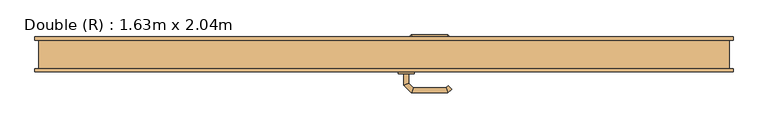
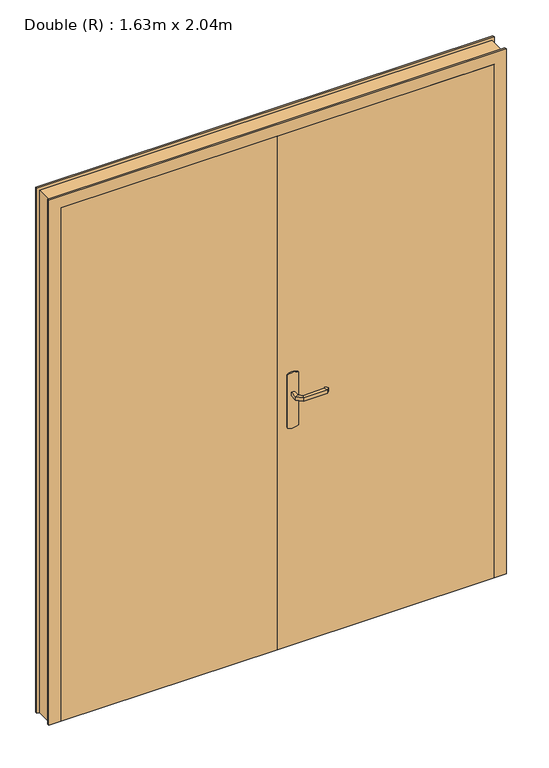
"""IFC4 building model written with IfcOpenShell, lengths in millimetres: door geometry, Double (R) : 1.63m x 2.04m."""

import ifcopenshell
import ifcopenshell.guid

model = None  # the IFC model being written
_history = None  # IfcOwnerHistory: only IFC2X3 demands one
_inside = {}  # id of a spatial element -> (the spatial element, [elements in it])
_under = {}  # id of a project, library or spatial element -> (it, [spatial elements below it])
_declared = {}  # id of a project -> (the project, [libraries it declares])
_typed = {}  # id of a type object -> (the type object, [elements of that type])
_made_of = {}  # id of a material, layer set ... -> (it, [elements and type objects made of it])


def new_model(schema):
    """Start an empty IFC model of exactly this schema.

    Asked for "IFC4X3", IfcOpenShell would pick the latest addendum, in which some entities
    have other attributes; the version numbers below select the first issue.
    IFC2X3 requires an IfcOwnerHistory on every rooted entity: one is made here for all.
    """
    global model, _history
    if schema == "IFC4X3":
        model = ifcopenshell.file(schema_version=(4, 3, 0, 0))
    else:
        model = ifcopenshell.file(schema=schema)
    _inside.clear()
    _under.clear()
    _declared.clear()
    _typed.clear()
    _made_of.clear()
    _history = None
    if model.schema == "IFC2X3":
        org = make("IfcOrganization", Name="unknown")
        user = make(
            "IfcPersonAndOrganization",
            ThePerson=make("IfcPerson", FamilyName="unknown"),
            TheOrganization=org,
        )
        app = make(
            "IfcApplication",
            ApplicationDeveloper=org,
            Version="unknown",
            ApplicationFullName="unknown",
            ApplicationIdentifier="unknown",
        )
        _history = make(
            "IfcOwnerHistory",
            OwningUser=user,
            OwningApplication=app,
            ChangeAction="ADDED",
            CreationDate=0,
        )
    return model


def make(cls, **values):
    """One entity of the class cls with the attributes given. An attribute that is None is left unset."""
    return model.create_entity(
        cls, **{name: value for name, value in values.items() if value is not None}
    )


def rooted(cls, **values):
    """An entity with a GlobalId (a new one), such as an element, a storey or a relation."""
    return make(cls, GlobalId=ifcopenshell.guid.new(), OwnerHistory=_history, **values)


def si_unit(unit_type, name, prefix=None):
    """IfcSIUnit, for example si_unit("LENGTHUNIT", "METRE", prefix="MILLI")."""
    return make("IfcSIUnit", UnitType=unit_type, Prefix=prefix, Name=name)


def assignment(units):
    """IfcUnitAssignment: the units of a project."""
    return None if units is None else make("IfcUnitAssignment", Units=units)


def point(xyz):
    """IfcCartesianPoint."""
    return None if xyz is None else make("IfcCartesianPoint", Coordinates=xyz)


def direction(xyz):
    """IfcDirection."""
    return None if xyz is None else make("IfcDirection", DirectionRatios=xyz)


def frame(location, z_axis=None, x_axis=None):
    """IfcAxis2Placement3D, a coordinate frame: its origin and axes. An axis left out is left unset."""
    return make(
        "IfcAxis2Placement3D",
        Location=point(location),
        Axis=direction(z_axis),
        RefDirection=direction(x_axis),
    )


def frame_2d(location, x_axis=None):
    """IfcAxis2Placement2D, a coordinate frame in the plane: its origin and x axis."""
    return make(
        "IfcAxis2Placement2D", Location=point(location), RefDirection=direction(x_axis)
    )


def origin():
    """The frame at (0, 0, 0) with its axes left unset."""
    return frame((0.0, 0.0, 0.0))


def origin_with_axes():
    """The frame at (0, 0, 0) with the z axis (0, 0, 1) and the x axis (1, 0, 0) written out."""
    return frame((0.0, 0.0, 0.0), z_axis=(0.0, 0.0, 1.0), x_axis=(1.0, 0.0, 0.0))


def place(relative_to, where):
    """IfcLocalPlacement: puts the frame where relative to a parent placement (None: the world)."""
    return make(
        "IfcLocalPlacement", PlacementRelTo=relative_to, RelativePlacement=where
    )


def context(
    kind, dimensions, precision=None, world=None, true_north=None, identifier=None
):
    """IfcGeometricRepresentationContext, for example the 3D "Model" context."""
    return make(
        "IfcGeometricRepresentationContext",
        ContextIdentifier=identifier,
        ContextType=kind,
        CoordinateSpaceDimension=dimensions,
        Precision=precision,
        WorldCoordinateSystem=world,
        TrueNorth=true_north,
    )


def project(units=None, contexts=None):
    """IfcProject with its units and contexts."""
    return rooted(
        "IfcProject",
        Name="project",
        RepresentationContexts=contexts,
        UnitsInContext=assignment(units),
    )


def spatial(cls, under=None, at=None, **own):
    """A site, building, storey or space (cls), placed at a placement, below another one or the project."""
    s = rooted(cls, ObjectPlacement=at, **own)
    if under is not None:
        _under.setdefault(under.id(), (under, []))[1].append(s)
    return s


def polyline(points):
    """IfcPolyline through the points."""
    return make("IfcPolyline", Points=[point(p) for p in points])


def circle_curve(where, radius):
    """IfcCircle in the frame where."""
    return make("IfcCircle", Position=where, Radius=radius)


def ellipse_curve(where, semi_axis1, semi_axis2):
    """IfcEllipse in the frame where."""
    return make(
        "IfcEllipse", Position=where, SemiAxis1=semi_axis1, SemiAxis2=semi_axis2
    )


def trimmed(basis, trim1, trim2, sense, master):
    """IfcTrimmedCurve: the piece of a basis curve between two trims."""
    return make(
        "IfcTrimmedCurve",
        BasisCurve=basis,
        Trim1=trim1,
        Trim2=trim2,
        SenseAgreement=sense,
        MasterRepresentation=master,
    )


def segment(curve, same_sense, transition):
    """IfcCompositeCurveSegment."""
    return make(
        "IfcCompositeCurveSegment",
        Transition=transition,
        SameSense=same_sense,
        ParentCurve=curve,
    )


def composite_curve(segments, self_intersect=None):
    """IfcCompositeCurve: segments joined end to end."""
    return make("IfcCompositeCurve", Segments=segments, SelfIntersect=self_intersect)


def outline(outer, holes=None, kind="AREA"):
    """IfcArbitraryClosedProfileDef: a profile drawn as a closed curve; with holes, ...WithVoids."""
    if holes is None:
        return make("IfcArbitraryClosedProfileDef", ProfileType=kind, OuterCurve=outer)
    return make(
        "IfcArbitraryProfileDefWithVoids",
        ProfileType=kind,
        OuterCurve=outer,
        InnerCurves=holes,
    )


def extrude(swept, where, along, depth):
    """IfcExtrudedAreaSolid: the profile swept, set in the frame where, extruded along a direction by depth."""
    return make(
        "IfcExtrudedAreaSolid",
        SweptArea=swept,
        Position=where,
        ExtrudedDirection=direction(along),
        Depth=depth,
    )


def faces_of(points, faces, orient=None, outer=None):
    """IfcFace entities. A face is a list of loops; a loop is a list of indices into points, from 0.

    orient and outer hold one flag for each loop. By default every Orientation is true, the
    first loop of a face is its IfcFaceOuterBound and the others are IfcFaceBound.
    """
    made = []
    for i, loops in enumerate(faces):
        bounds = []
        for j, loop in enumerate(loops):
            is_outer = j == 0 if outer is None else outer[i][j]
            bounds.append(
                make(
                    "IfcFaceOuterBound" if is_outer else "IfcFaceBound",
                    Bound=make("IfcPolyLoop", Polygon=[points[k] for k in loop]),
                    Orientation=True if orient is None else orient[i][j],
                )
            )
        made.append(make("IfcFace", Bounds=bounds))
    return made


def faceted_brep(points, faces, orient=None, outer=None, voids=None):
    """IfcFacetedBrep: a solid bounded by flat faces; with voids (closed shells), ...WithVoids."""
    shared = [point(p) for p in points]
    hull = make("IfcClosedShell", CfsFaces=faces_of(shared, faces, orient, outer))
    if voids is None:
        return make("IfcFacetedBrep", Outer=hull)
    return make(
        "IfcFacetedBrepWithVoids",
        Outer=hull,
        Voids=[
            make(cls, CfsFaces=faces_of(shared, fs, o, b)) for cls, fs, o, b in voids
        ],
    )


def shape(context_of_items, identifier, shape_type, items):
    """IfcShapeRepresentation: the items that make up one representation, for example the "Body"."""
    return make(
        "IfcShapeRepresentation",
        ContextOfItems=context_of_items,
        RepresentationIdentifier=identifier,
        RepresentationType=shape_type,
        Items=items,
    )


def source(mapping_origin, context_of_items, identifier, shape_type, items):
    """IfcRepresentationMap: a shape defined once, which mapped items show again and again."""
    return make(
        "IfcRepresentationMap",
        MappingOrigin=mapping_origin,
        MappedRepresentation=shape(context_of_items, identifier, shape_type, items),
    )


def transform(
    local_origin,
    x_axis=None,
    y_axis=None,
    z_axis=None,
    scale=None,
    scale2=None,
    scale3=None,
    uniform=True,
):
    """IfcCartesianTransformationOperator3D, or its non-uniform kind. x_axis, y_axis, z_axis: its Axis1, 2, 3."""
    if uniform:
        return make(
            "IfcCartesianTransformationOperator3D",
            Axis1=direction(x_axis),
            Axis2=direction(y_axis),
            LocalOrigin=point(local_origin),
            Scale=scale,
            Axis3=direction(z_axis),
        )
    return make(
        "IfcCartesianTransformationOperator3DnonUniform",
        Axis1=direction(x_axis),
        Axis2=direction(y_axis),
        LocalOrigin=point(local_origin),
        Scale=scale,
        Axis3=direction(z_axis),
        Scale2=scale2,
        Scale3=scale3,
    )


def mapped(mapping_source, mapping_target):
    """IfcMappedItem: shows the shape of a source again, moved by a transform."""
    return make(
        "IfcMappedItem", MappingSource=mapping_source, MappingTarget=mapping_target
    )


def made_of(thing, what):
    """Note that an element or type object is made of a material, layer set ...; save() writes the relation."""
    if what is not None:
        _made_of.setdefault(what.id(), (what, []))[1].append(thing)
    return thing


def element(
    cls,
    number,
    at=None,
    inside=None,
    cuts=None,
    type_object=None,
    material=None,
    context=None,
    identifier="Body",
    shape_type=None,
    held_by="IfcProductDefinitionShape",
    body=None,
    shapes=None,
    **own,
):
    """One element of the class cls, such as IfcWall. Its Tag is "e" and its number.

    at: its placement. inside: the storey or other place that contains it. cuts: it is an
    opening in that element (IfcRelVoidsElement). A single representation is given by context,
    identifier, shape_type and body (its items); several are given by shapes. held_by: the class
    of the entity that holds the representations. save() writes the other relations.
    """
    e = rooted(cls, Tag="e%d" % number, ObjectPlacement=at, **own)
    if body is not None:
        shapes = [shape(context, identifier, shape_type, body)]
    if shapes is not None:
        e.Representation = make(held_by, Representations=shapes)
    if inside is not None:
        _inside.setdefault(inside.id(), (inside, []))[1].append(e)
    if cuts is not None:
        rooted(
            "IfcRelVoidsElement", RelatingBuildingElement=cuts, RelatedOpeningElement=e
        )
    if type_object is not None:
        _typed.setdefault(type_object.id(), (type_object, []))[1].append(e)
    return made_of(e, material)


def aggregate(whole, parts):
    """IfcRelAggregates: a whole, such as a stair, and the parts it consists of."""
    return rooted("IfcRelAggregates", RelatingObject=whole, RelatedObjects=parts)


def save(model, path):
    """Write the relations noted so far, then the file.

    IfcRelAggregates (storeys below a building ...), IfcRelContainedInSpatialStructure (elements
    in a storey), IfcRelDefinesByType, IfcRelAssociatesMaterial and IfcRelDeclares: one each for
    every whole, place, type object, material and project.
    """
    for whole, parts in _under.values():
        aggregate(whole, parts)
    for where, things in _inside.values():
        rooted(
            "IfcRelContainedInSpatialStructure",
            RelatedElements=things,
            RelatingStructure=where,
        )
    for kind, things in _typed.values():
        rooted("IfcRelDefinesByType", RelatedObjects=things, RelatingType=kind)
    for what, things in _made_of.values():
        rooted("IfcRelAssociatesMaterial", RelatedObjects=things, RelatingMaterial=what)
    for by, libraries in _declared.values():
        rooted("IfcRelDeclares", RelatingContext=by, RelatedDefinitions=libraries)
    model.write(path)


def plane_surface(at):
    """IfcPlane: the flat surface through the origin of the frame at, square to its z axis."""
    return make("IfcPlane", Position=at)


def cylinder_surface(at, radius):
    """IfcCylindricalSurface: all points at the distance radius from the z axis of the frame at."""
    return make("IfcCylindricalSurface", Position=at, Radius=radius)


def advanced_brep(points, edges, surfaces, faces):
    """IfcAdvancedBrep: a solid bounded by faces that lie on surfaces and meet in shared edges.

    An edge is (start, end): straight between two places in points (the first is 0);
    or (start, end, curve); or (start, end, curve, False) where it runs against its curve.
    A face is (place in surfaces, loops), or (place, loops, False) where it looks against
    its surface's normal. A loop lists edges by number (the first is 1), with a minus sign
    where the edge is run from its end to its start. The first loop is the outer one.
    """
    corners = [point(p) for p in points]
    vertices = [make("IfcVertexPoint", VertexGeometry=c) for c in corners]
    made = []
    for start, end, *more in edges:
        made.append(
            make(
                "IfcEdgeCurve",
                EdgeStart=vertices[start],
                EdgeEnd=vertices[end],
                EdgeGeometry=more[0] if more else make("IfcPolyline", Points=[corners[start], corners[end]]),
                SameSense=more[1] if len(more) > 1 else True,
            )
        )
    hull = []
    for where, loops, *sense in faces:
        bounds = []
        for j, loop in enumerate(loops):
            ring = [make("IfcOrientedEdge", EdgeElement=made[abs(k) - 1], Orientation=k > 0) for k in loop]
            bounds.append(
                make(
                    "IfcFaceOuterBound" if j == 0 else "IfcFaceBound",
                    Bound=make("IfcEdgeLoop", EdgeList=ring),
                    Orientation=True,
                )
            )
        hull.append(make("IfcAdvancedFace", Bounds=bounds, FaceSurface=surfaces[where], SameSense=sense[0] if sense else True))
    return make("IfcAdvancedBrep", Outer=make("IfcClosedShell", CfsFaces=hull))


def double_r_1_63m_x_2_04m_f0196d8f(model_context):
    return source(origin(), model_context, "Body", "SolidModel", [
        advanced_brep(
        [(61.0, 2.0, 993.0), (61.0, 2.0, 1007.0), (49.0, 2.0, 1007.0), (49.0, 2.0, 993.0), (61.0, 24.4852045, 993.0), (61.0, 24.4852045, 1007.0), (49.0, 29.4557673, 1007.0), (49.0, 29.4557673, 993.0), (72.4852814, 35.9704859, 993.0), (72.4852814, 35.9704859, 1007.0), (67.5147186, 47.9704859, 1007.0), (67.5147186, 47.9704859, 993.0), (152.5605023, 35.9704859, 993.0), (152.5605023, 35.9704859, 1007.0), (157.531065, 47.9704859, 1007.0), (157.531065, 47.9704859, 993.0), (157.8742108, 30.6567774, 993.0), (166.3594922, 39.1420588, 993.0), (166.3594922, 39.1420588, 1007.0), (157.8742108, 30.6567774, 1007.0)],
        [
            (0, 1),
            (1, 2, circle_curve(frame((55.0, 2.0, 986.9542278), z_axis=(0.0, -1.0, 0.0), x_axis=(-1.0, 0.0, 0.0)), 20.9244589)),
            (2, 3),
            (3, 0, circle_curve(frame((55.0, 2.0, 1013.0457722), z_axis=(0.0, -1.0, 0.0), x_axis=(-1.0, 0.0, 0.0)), 20.9244589)),
            (0, 4),
            (4, 5),
            (5, 1),
            (5, 6, ellipse_curve(frame((55.0, 26.9704859, 986.9542278), z_axis=(-0.38268343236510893, -0.9238795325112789, 0.0), x_axis=(0.9238795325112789, -0.3826834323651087, 0.0)), 22.6484711, 20.9244589)),
            (6, 2),
            (6, 7),
            (7, 3),
            (7, 4, ellipse_curve(frame((55.0, 26.9704859, 1013.0457722), z_axis=(-0.38268343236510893, -0.9238795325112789, 0.0), x_axis=(0.9238795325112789, -0.3826834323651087, 0.0)), 22.6484711, 20.9244589)),
            (4, 8),
            (8, 9),
            (9, 5),
            (9, 10, ellipse_curve(frame((70.0, 41.9704859, 986.9542278), z_axis=(-0.9238795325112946, -0.38268343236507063, 0.0), x_axis=(0.3826834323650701, -0.9238795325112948, 0.0)), 22.6484711, 20.9244589)),
            (10, 6),
            (10, 11),
            (11, 7),
            (11, 8, ellipse_curve(frame((70.0, 41.9704859, 1013.0457722), z_axis=(-0.9238795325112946, -0.38268343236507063, 0.0), x_axis=(0.3826834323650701, -0.9238795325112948, 0.0)), 22.6484711, 20.9244589)),
            (8, 12),
            (12, 13),
            (13, 9),
            (13, 14, ellipse_curve(frame((155.0457837, 41.9704859, 986.9542278), z_axis=(-0.9238795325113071, 0.38268343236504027, 0.0), x_axis=(-0.38268343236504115, -0.9238795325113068, 0.0)), 22.6484711, 20.9244589)),
            (14, 10),
            (14, 15),
            (15, 11),
            (15, 12, ellipse_curve(frame((155.0457837, 41.9704859, 1013.0457722), z_axis=(-0.9238795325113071, 0.38268343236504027, 0.0), x_axis=(-0.38268343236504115, -0.9238795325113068, 0.0)), 22.6484711, 20.9244589)),
            (16, 17, circle_curve(frame((162.1168515, 34.8994181, 1013.0457722), z_axis=(0.7071067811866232, -0.7071067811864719, 0.0), x_axis=(0.7071067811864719, 0.7071067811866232, 0.0)), 20.9244589)),
            (17, 18),
            (18, 19, circle_curve(frame((162.1168515, 34.8994181, 986.9542278), z_axis=(0.7071067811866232, -0.7071067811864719, 0.0), x_axis=(0.7071067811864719, 0.7071067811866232, 0.0)), 20.9244589)),
            (19, 16),
            (12, 16),
            (19, 13),
            (18, 14),
            (17, 15),
        ],
        [
            plane_surface(frame((45.7804555, 2.0, 1000.0), z_axis=(0.0, -1.0, 0.0), x_axis=(0.0, 0.0, 1.0))),
            plane_surface(frame((61.0, 2.0, 993.0), z_axis=(1.0, 0.0, 0.0), x_axis=(0.0, 1.0, 0.0))),
            cylinder_surface(frame((55.0, 2.0, 986.9542278), z_axis=(0.0, -1.0, 0.0), x_axis=(-1.0, 0.0, 0.0)), 20.9244589),
            plane_surface(frame((49.0, 2.0, 1007.0), z_axis=(-1.0, 0.0, 0.0), x_axis=(0.0, 1.0, 0.0))),
            cylinder_surface(frame((55.0, 2.0, 1013.0457722), z_axis=(0.0, -1.0, 0.0), x_axis=(-1.0, 0.0, 0.0)), 20.9244589),
            plane_surface(frame((61.0, 24.4852045, 993.0), z_axis=(0.707106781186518, -0.707106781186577, 0.0), x_axis=(0.707106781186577, 0.707106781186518, 0.0))),
            cylinder_surface(frame((55.0, 26.9704859, 986.9542278), z_axis=(-0.7071067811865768, -0.7071067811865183, 0.0), x_axis=(-0.7071067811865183, 0.7071067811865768, 0.0)), 20.9244589),
            plane_surface(frame((49.0, 29.4557673, 1007.0), z_axis=(-0.7071067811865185, 0.7071067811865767, 0.0), x_axis=(0.7071067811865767, 0.7071067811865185, 0.0))),
            cylinder_surface(frame((55.0, 26.9704859, 1013.0457722), z_axis=(-0.7071067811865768, -0.7071067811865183, 0.0), x_axis=(-0.7071067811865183, 0.7071067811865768, 0.0)), 20.9244589),
            plane_surface(frame((72.4852814, 35.9704859, 993.0), z_axis=(0.0, -1.0, 0.0), x_axis=(1.0, 0.0, 0.0))),
            cylinder_surface(frame((70.0, 41.9704859, 986.9542278), z_axis=(-1.0, 0.0, 0.0), x_axis=(0.0, 1.0, 0.0)), 20.9244589),
            plane_surface(frame((67.5147186, 47.9704859, 1007.0), z_axis=(0.0, 1.0, 0.0), x_axis=(1.0, 0.0, 0.0))),
            cylinder_surface(frame((70.0, 41.9704859, 1013.0457722), z_axis=(-1.0, 0.0, 0.0), x_axis=(0.0, 1.0, 0.0)), 20.9244589),
            plane_surface(frame((162.1168515, 34.8994181, 990.7804555), z_axis=(0.7071067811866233, -0.7071067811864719, 0.0), x_axis=(0.7071067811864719, 0.7071067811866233, 0.0))),
            plane_surface(frame((152.5605023, 35.9704859, 993.0), z_axis=(-0.707106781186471, -0.7071067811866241, 0.0), x_axis=(0.7071067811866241, -0.707106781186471, 0.0))),
            cylinder_surface(frame((155.0457837, 41.9704859, 986.9542278), z_axis=(-0.7071067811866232, 0.7071067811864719, 0.0), x_axis=(0.7071067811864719, 0.7071067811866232, 0.0)), 20.9244589),
            plane_surface(frame((157.531065, 47.9704859, 1007.0), z_axis=(0.7071067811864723, 0.7071067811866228, 0.0), x_axis=(0.7071067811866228, -0.7071067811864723, 0.0))),
            cylinder_surface(frame((155.0457837, 41.9704859, 1013.0457722), z_axis=(-0.7071067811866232, 0.7071067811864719, 0.0), x_axis=(0.7071067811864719, 0.7071067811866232, 0.0)), 20.9244589),
        ],
        [
            (0, [[1, 2, 3, 4]]),
            (1, [[-1, 5, 6, 7]]),
            (2, [[-2, -7, 8, 9]]),
            (3, [[-3, -9, 10, 11]]),
            (4, [[-4, -11, 12, -5]]),
            (5, [[-6, 13, 14, 15]]),
            (6, [[-8, -15, 16, 17]]),
            (7, [[-10, -17, 18, 19]]),
            (8, [[-12, -19, 20, -13]]),
            (9, [[-14, 21, 22, 23]]),
            (10, [[-16, -23, 24, 25]]),
            (11, [[-18, -25, 26, 27]]),
            (12, [[-20, -27, 28, -21]]),
            (13, [[29, 30, 31, 32]]),
            (14, [[-22, 33, -32, 34]]),
            (15, [[-24, -34, -31, 35]]),
            (16, [[-26, -35, -30, 36]]),
            (17, [[-28, -36, -29, -33]]),
        ],
    ),
        advanced_brep(
        [(49.0, -48.0, 1007.0), (61.0, -48.0, 1007.0), (61.0, -48.0, 993.0), (49.0, -48.0, 993.0), (49.0, -75.6509507, 1007.0), (61.0, -70.680388, 1007.0), (61.0, -70.680388, 993.0), (49.0, -75.6509507, 993.0), (67.37721, -94.0281607, 1007.0), (72.3477727, -82.0281607, 1007.0), (72.3477727, -82.0281607, 993.0), (67.37721, -94.0281607, 993.0), (157.503922, -94.0281607, 1007.0), (152.5333592, -82.0281607, 1007.0), (152.5333592, -82.0281607, 993.0), (157.503922, -94.0281607, 993.0), (166.3323491, -85.1997336, 1007.0), (166.3323491, -85.1997336, 993.0), (157.8470677, -76.7144522, 993.0), (157.8470677, -76.7144522, 1007.0)],
        [
            (0, 1, circle_curve(frame((55.0, -48.0, 986.9542278), z_axis=(0.0, 1.0, 0.0), x_axis=(1.0, 0.0, 0.0)), 20.9244589)),
            (1, 2),
            (2, 3, circle_curve(frame((55.0, -48.0, 1013.0457722), z_axis=(0.0, 1.0, 0.0), x_axis=(1.0, 0.0, 0.0)), 20.9244589)),
            (3, 0),
            (0, 4),
            (4, 5, ellipse_curve(frame((55.0, -73.1656693, 986.9542278), z_axis=(-0.3826834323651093, 0.9238795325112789, 0.0), x_axis=(0.9238795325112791, 0.38268343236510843, 0.0)), 22.6484711, 20.9244589)),
            (5, 1),
            (5, 6),
            (6, 2),
            (6, 7, ellipse_curve(frame((55.0, -73.1656693, 1013.0457722), z_axis=(-0.3826834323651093, 0.9238795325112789, 0.0), x_axis=(0.9238795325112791, 0.38268343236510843, 0.0)), 22.6484711, 20.9244589)),
            (7, 3),
            (7, 4),
            (4, 8),
            (8, 9, ellipse_curve(frame((69.8624914, -88.0281607, 986.9542278), z_axis=(-0.9238795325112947, 0.38268343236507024, 0.0), x_axis=(0.3826834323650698, 0.9238795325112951, 0.0)), 22.6484711, 20.9244589)),
            (9, 5),
            (9, 10),
            (10, 6),
            (10, 11, ellipse_curve(frame((69.8624914, -88.0281607, 1013.0457722), z_axis=(-0.9238795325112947, 0.38268343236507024, 0.0), x_axis=(0.3826834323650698, 0.9238795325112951, 0.0)), 22.6484711, 20.9244589)),
            (11, 7),
            (11, 8),
            (8, 12),
            (12, 13, ellipse_curve(frame((155.0186406, -88.0281607, 986.9542278), z_axis=(-0.9238795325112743, -0.3826834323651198, 0.0), x_axis=(-0.38268343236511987, 0.9238795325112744, 0.0)), 22.6484711, 20.9244589)),
            (13, 9),
            (13, 14),
            (14, 10),
            (14, 15, ellipse_curve(frame((155.0186406, -88.0281607, 1013.0457722), z_axis=(-0.9238795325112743, -0.3826834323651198, 0.0), x_axis=(-0.38268343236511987, 0.9238795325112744, 0.0)), 22.6484711, 20.9244589)),
            (15, 11),
            (15, 12),
            (16, 17),
            (17, 18, circle_curve(frame((162.0897084, -80.9570929, 1013.0457722), z_axis=(0.7071067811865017, 0.7071067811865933, 0.0), x_axis=(-0.7071067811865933, 0.7071067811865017, 0.0)), 20.9244589)),
            (18, 19),
            (19, 16, circle_curve(frame((162.0897084, -80.9570929, 986.9542278), z_axis=(0.7071067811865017, 0.7071067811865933, 0.0), x_axis=(-0.7071067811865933, 0.7071067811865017, 0.0)), 20.9244589)),
            (12, 16),
            (19, 13),
            (18, 14),
            (17, 15),
        ],
        [
            plane_surface(frame((45.7804555, -48.0, 1000.0), z_axis=(0.0, 1.0, 0.0), x_axis=(0.0, 0.0, -1.0))),
            cylinder_surface(frame((55.0, -48.0, 986.9542278), z_axis=(0.0, 1.0, 0.0), x_axis=(1.0, 0.0, 0.0)), 20.9244589),
            plane_surface(frame((61.0, -48.0, 1007.0), z_axis=(1.0, 0.0, 0.0), x_axis=(0.0, -1.0, 0.0))),
            cylinder_surface(frame((55.0, -48.0, 1013.0457722), z_axis=(0.0, 1.0, 0.0), x_axis=(1.0, 0.0, 0.0)), 20.9244589),
            plane_surface(frame((49.0, -48.0, 993.0), z_axis=(-1.0, 0.0, 0.0), x_axis=(0.0, -1.0, 0.0))),
            cylinder_surface(frame((55.0, -73.1656693, 986.9542278), z_axis=(-0.7071067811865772, 0.7071067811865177, 0.0), x_axis=(0.7071067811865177, 0.7071067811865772, 0.0)), 20.9244589),
            plane_surface(frame((61.0, -70.680388, 1007.0), z_axis=(0.7071067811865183, 0.7071067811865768, 0.0), x_axis=(0.7071067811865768, -0.7071067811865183, 0.0))),
            cylinder_surface(frame((55.0, -73.1656693, 1013.0457722), z_axis=(-0.7071067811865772, 0.7071067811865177, 0.0), x_axis=(0.7071067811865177, 0.7071067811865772, 0.0)), 20.9244589),
            plane_surface(frame((49.0, -75.6509507, 993.0), z_axis=(-0.707106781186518, -0.707106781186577, 0.0), x_axis=(0.707106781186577, -0.707106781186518, 0.0))),
            cylinder_surface(frame((69.8624914, -88.0281607, 986.9542278), z_axis=(-1.0, 0.0, 0.0), x_axis=(0.0, 1.0, 0.0)), 20.9244589),
            plane_surface(frame((72.3477727, -82.0281607, 1007.0), z_axis=(0.0, 1.0, 0.0), x_axis=(1.0, 0.0, 0.0))),
            cylinder_surface(frame((69.8624914, -88.0281607, 1013.0457722), z_axis=(-1.0, 0.0, 0.0), x_axis=(0.0, 1.0, 0.0)), 20.9244589),
            plane_surface(frame((67.37721, -94.0281607, 993.0), z_axis=(0.0, -1.0, 0.0), x_axis=(1.0, 0.0, 0.0))),
            plane_surface(frame((162.0897084, -80.9570929, 1009.2195445), z_axis=(0.7071067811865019, 0.7071067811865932, 0.0), x_axis=(0.7071067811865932, -0.7071067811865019, 0.0))),
            cylinder_surface(frame((155.0186406, -88.0281607, 986.9542278), z_axis=(-0.7071067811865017, -0.7071067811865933, 0.0), x_axis=(-0.7071067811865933, 0.7071067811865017, 0.0)), 20.9244589),
            plane_surface(frame((152.5333592, -82.0281607, 1007.0), z_axis=(-0.7071067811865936, 0.7071067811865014, 0.0), x_axis=(0.7071067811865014, 0.7071067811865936, 0.0))),
            cylinder_surface(frame((155.0186406, -88.0281607, 1013.0457722), z_axis=(-0.7071067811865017, -0.7071067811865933, 0.0), x_axis=(-0.7071067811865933, 0.7071067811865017, 0.0)), 20.9244589),
            plane_surface(frame((157.503922, -94.0281607, 993.0), z_axis=(0.707106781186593, -0.7071067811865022, 0.0), x_axis=(0.7071067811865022, 0.707106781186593, 0.0))),
        ],
        [
            (0, [[1, 2, 3, 4]]),
            (1, [[-1, 5, 6, 7]]),
            (2, [[-2, -7, 8, 9]]),
            (3, [[-3, -9, 10, 11]]),
            (4, [[-4, -11, 12, -5]]),
            (5, [[-6, 13, 14, 15]]),
            (6, [[-8, -15, 16, 17]]),
            (7, [[-10, -17, 18, 19]]),
            (8, [[-12, -19, 20, -13]]),
            (9, [[-14, 21, 22, 23]]),
            (10, [[-16, -23, 24, 25]]),
            (11, [[-18, -25, 26, 27]]),
            (12, [[-20, -27, 28, -21]]),
            (13, [[29, 30, 31, 32]]),
            (14, [[-22, 33, -32, 34]]),
            (15, [[-24, -34, -31, 35]]),
            (16, [[-26, -35, -30, 36]]),
            (17, [[-28, -36, -29, -33]]),
        ],
    ),
        extrude(outline(composite_curve([segment(trimmed(circle_curve(frame_2d((1045.3589838, 55.0)), 40.0), [point((1080.0, 75.0))], [point((1080.0, 35.0))], False, "CARTESIAN"), True, "CONTINUOUS"), segment(polyline([(1080.0, 35.0), (870.0, 35.0)]), True, "CONTINUOUS"), segment(trimmed(circle_curve(frame_2d((904.6410162, 55.0)), 40.0), [point((870.0, 35.0))], [point((870.0, 75.0))], False, "CARTESIAN"), True, "CONTINUOUS"), segment(polyline([(870.0, 75.0), (1080.0, 75.0)]), True, "CONTINUOUS")], self_intersect=False)), frame((0.0, -3.0, 0.0), z_axis=(0.0, 1.0, 0.0), x_axis=(0.0, 0.0, 1.0)), (0.0, 0.0, 1.0), 5.0),
        extrude(outline(composite_curve([segment(trimmed(circle_curve(frame_2d((904.6410162, 55.0)), 40.0), [point((870.0, 35.0))], [point((870.0, 75.0))], False, "CARTESIAN"), True, "CONTINUOUS"), segment(polyline([(870.0, 75.0), (1080.0, 75.0)]), True, "CONTINUOUS"), segment(trimmed(circle_curve(frame_2d((1045.3589838, 55.0)), 40.0), [point((1080.0, 75.0))], [point((1080.0, 35.0))], False, "CARTESIAN"), True, "CONTINUOUS"), segment(polyline([(1080.0, 35.0), (870.0, 35.0)]), True, "CONTINUOUS")], self_intersect=False)), frame((0.0, -48.0, 0.0), z_axis=(0.0, 1.0, 0.0), x_axis=(0.0, 0.0, 1.0)), (0.0, 0.0, 1.0), 5.0),
        faceted_brep([(-850.0, -35.0, 0.0), (-850.0, 35.0, 0.0), (-860.0, 35.0, 0.0), (-860.0, 43.0, 0.0), (-800.0, 43.0, 0.0), (-800.0, -3.0, 0.0), (-815.0, -3.0, 0.0), (-815.0, -43.0, 0.0), (-860.0, -43.0, 0.0), (-860.0, -35.0, 0.0), (-850.0, -35.0, 2075.0), (-850.0, 35.0, 2075.0), (850.0, 35.0, 2075.0), (850.0, 35.0, 0.0), (860.0, 35.0, 0.0), (860.0, 35.0, 2085.0), (-860.0, 35.0, 2085.0), (-860.0, 43.0, 2085.0), (860.0, 43.0, 2085.0), (860.0, 43.0, 0.0), (800.0, 43.0, 0.0), (800.0, 43.0, 2025.0), (-800.0, 43.0, 2025.0), (-800.0, -3.0, 2025.0), (800.0, -3.0, 2025.0), (800.0, -3.0, 0.0), (815.0, -3.0, 0.0), (815.0, -3.0, 2040.0), (-815.0, -3.0, 2040.0), (-815.0, -43.0, 2040.0), (815.0, -43.0, 2040.0), (815.0, -43.0, 0.0), (860.0, -43.0, 0.0), (860.0, -43.0, 2085.0), (-860.0, -43.0, 2085.0), (-860.0, -35.0, 2085.0), (860.0, -35.0, 2085.0), (860.0, -35.0, 0.0), (850.0, -35.0, 0.0), (850.0, -35.0, 2075.0)], [[[0, 1, 2, 3, 4, 5, 6, 7, 8, 9]], [[1, 0, 10, 11]], [[2, 1, 11, 12, 13, 14, 15, 16]], [[3, 2, 16, 17]], [[4, 3, 17, 18, 19, 20, 21, 22]], [[5, 4, 22, 23]], [[6, 5, 23, 24, 25, 26, 27, 28]], [[7, 6, 28, 29]], [[8, 7, 29, 30, 31, 32, 33, 34]], [[9, 8, 34, 35]], [[0, 9, 35, 36, 37, 38, 39, 10]], [[12, 39, 38, 13]], [[38, 37, 32, 31, 26, 25, 20, 19, 14, 13]], [[18, 15, 14, 19]], [[24, 21, 20, 25]], [[30, 27, 26, 31]], [[36, 33, 32, 37]], [[11, 10, 39, 12]], [[17, 16, 15, 18]], [[23, 22, 21, 24]], [[29, 28, 27, 30]], [[35, 34, 33, 36]]]),
        extrude(outline(polyline([(815.0, -43.0), (0.0, -43.0), (0.0, -3.0), (815.0, -3.0), (815.0, -43.0)])), origin_with_axes(), (0.0, 0.0, 1.0), 2040.0),
        extrude(outline(polyline([(0.0, -43.0), (-815.0, -43.0), (-815.0, -3.0), (0.0, -3.0), (0.0, -43.0)])), origin_with_axes(), (0.0, 0.0, 1.0), 2040.0),
    ])


if __name__ == "__main__":
    model = new_model("IFC4")
    model_context = context("Model", 3, world=origin())
    ifc_project = project(units=[si_unit("LENGTHUNIT", "METRE", prefix="MILLI")], contexts=[model_context])
    site = spatial("IfcSite", under=ifc_project)
    building = spatial("IfcBuilding", under=site)
    placement = place(None, origin())
    double_r_1_63m_x_2_04m_shape = double_r_1_63m_x_2_04m_f0196d8f(model_context)
    element("IfcDoor", 1, ObjectType="Double (R) : 1.63m x 2.04m", at=placement, inside=building, context=model_context, shape_type="MappedRepresentation", body=[
        mapped(double_r_1_63m_x_2_04m_shape, transform((0.0, 0.0, 0.0), x_axis=(1.0, 0.0, 0.0), y_axis=(0.0, 1.0, 0.0), z_axis=(0.0, 0.0, 1.0))),
    ])
    save(model, "model.ifc")
